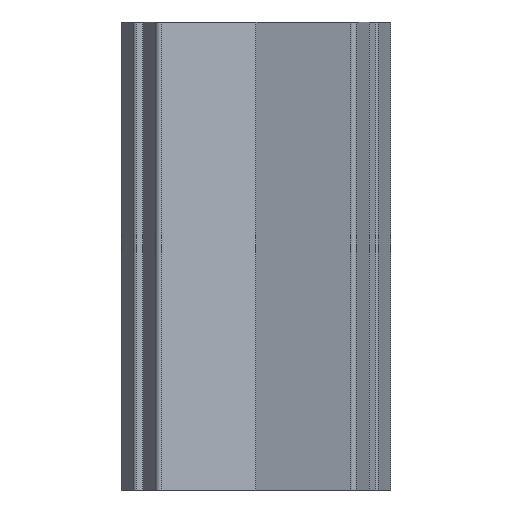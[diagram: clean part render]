
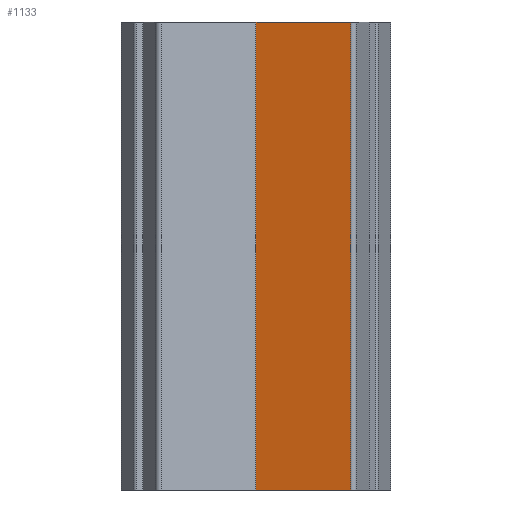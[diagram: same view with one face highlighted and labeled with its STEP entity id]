
A CAD part, front view. The second image highlights one B-rep face of the part: STEP entity #1133.
In plain terms, the highlighted planar face has unit normal (-0.259, -0.966, 0).
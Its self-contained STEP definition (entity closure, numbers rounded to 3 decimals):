
#234 = VERTEX_POINT ( 'NONE', #1678 ) ;
#341 = VERTEX_POINT ( 'NONE', #1893 ) ;
#469 = CARTESIAN_POINT ( 'NONE',  ( 0., -13.042, 50. ) ) ;
#625 = ORIENTED_EDGE ( 'NONE', *, *, #2445, .F. ) ;
#698 = VERTEX_POINT ( 'NONE', #1240 ) ;
#723 = EDGE_CURVE ( 'NONE', #698, #341, #1204, .T. ) ;
#756 = ORIENTED_EDGE ( 'NONE', *, *, #723, .F. ) ;
#999 = DIRECTION ( 'NONE',  ( 0., 0., 1. ) ) ;
#1133 = ADVANCED_FACE ( 'NONE', ( #3052 ), #2327, .T. ) ;
#1197 = CARTESIAN_POINT ( 'NONE',  ( 0., -13.042, -50. ) ) ;
#1204 = LINE ( 'NONE', #469, #1779 ) ;
#1240 = CARTESIAN_POINT ( 'NONE',  ( 0., -13.042, 50. ) ) ;
#1329 = CARTESIAN_POINT ( 'NONE',  ( 0., -13.042, -50. ) ) ;
#1393 = VECTOR ( 'NONE', #999, 1000. ) ;
#1451 = DIRECTION ( 'NONE',  ( 0.966, -0.259, 0. ) ) ;
#1512 = LINE ( 'NONE', #2994, #1393 ) ;
#1590 = VECTOR ( 'NONE', #1451, 1000. ) ;
#1678 = CARTESIAN_POINT ( 'NONE',  ( 0., -13.042, -50. ) ) ;
#1779 = VECTOR ( 'NONE', #3195, 1000. ) ;
#1831 = EDGE_CURVE ( 'NONE', #234, #2153, #1908, .T. ) ;
#1893 = CARTESIAN_POINT ( 'NONE',  ( 20.274, -18.474, 50. ) ) ;
#1908 = LINE ( 'NONE', #1197, #1590 ) ;
#2022 = ORIENTED_EDGE ( 'NONE', *, *, #1831, .T. ) ;
#2075 = ORIENTED_EDGE ( 'NONE', *, *, #2566, .T. ) ;
#2083 = DIRECTION ( 'NONE',  ( 0., 0., 1. ) ) ;
#2114 = DIRECTION ( 'NONE',  ( 0.966, -0.259, 0. ) ) ;
#2153 = VERTEX_POINT ( 'NONE', #2332 ) ;
#2291 = VECTOR ( 'NONE', #2083, 1000. ) ;
#2301 = LINE ( 'NONE', #2556, #2291 ) ;
#2327 = PLANE ( 'NONE',  #2589 ) ;
#2332 = CARTESIAN_POINT ( 'NONE',  ( 20.274, -18.474, -50. ) ) ;
#2445 = EDGE_CURVE ( 'NONE', #234, #698, #1512, .T. ) ;
#2556 = CARTESIAN_POINT ( 'NONE',  ( 20.274, -18.474, -50. ) ) ;
#2566 = EDGE_CURVE ( 'NONE', #2153, #341, #2301, .T. ) ;
#2589 = AXIS2_PLACEMENT_3D ( 'NONE', #1329, #2843, #2114 ) ;
#2609 = EDGE_LOOP ( 'NONE', ( #756, #625, #2022, #2075 ) ) ;
#2843 = DIRECTION ( 'NONE',  ( -0.259, -0.966, 0. ) ) ;
#2994 = CARTESIAN_POINT ( 'NONE',  ( 0., -13.042, -50. ) ) ;
#3052 = FACE_OUTER_BOUND ( 'NONE', #2609, .T. ) ;
#3195 = DIRECTION ( 'NONE',  ( 0.966, -0.259, 0. ) ) ;
